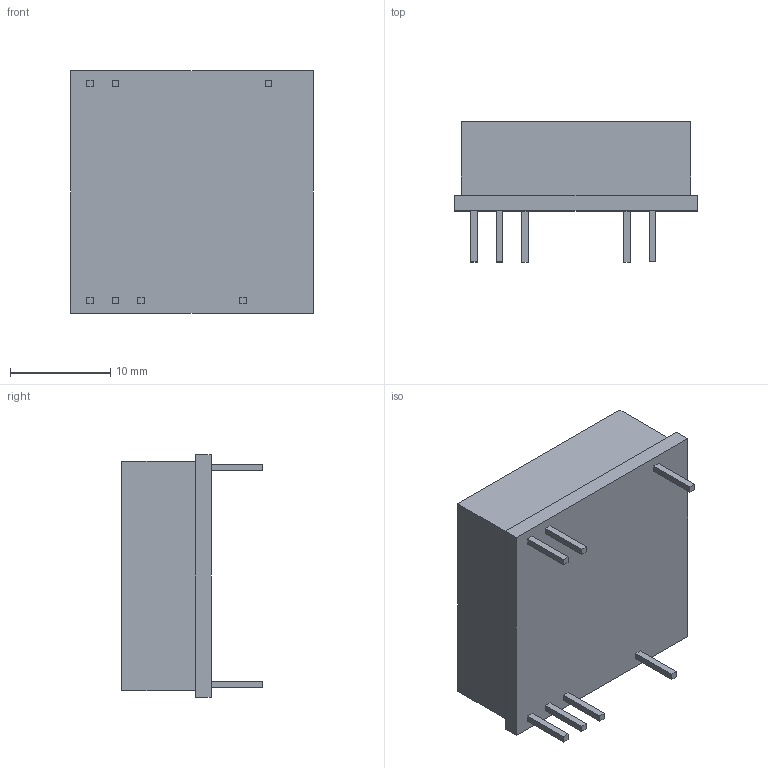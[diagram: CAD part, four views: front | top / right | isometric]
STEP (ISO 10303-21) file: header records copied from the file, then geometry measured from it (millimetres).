
FILE_DESCRIPTION(/* description */ (''),/* implementation_level */ '2;1');
FILE_NAME(/* name */ 'C:/Users/Nicholas/Downloads/1364 HVPS v4.step',/* time_stamp */ '2021-06-05T23:05:42-07:00',/* author */ (''),/* organization */ (''),/* preprocessor_version */ 'ST-DEVELOPER v18.1',/* originating_system */ 'Autodesk Translation Framework v10.9.0.1377',/* authorisation */ '');
FILE_SCHEMA (('AUTOMOTIVE_DESIGN { 1 0 10303 214 3 1 1 }'));
Length unit declared in the file: inch
Products named in the file (1): 1364 HVPS
Bounding box: 24.13 x 13.97 x 24.13 mm (x, y, z)
Volume: 4754.1 mm3; surface area: 2075.7 mm2
Topology: 1 solids, 1 shells, 46 faces, 108 edges, 72 vertices
Faces by surface type: plane 46
Entity records: 1388 total; most frequent: CARTESIAN_POINT 227, ORIENTED_EDGE 216, DIRECTION 202, LINE 108, VECTOR 108, EDGE_CURVE 108, VERTEX_POINT 72, EDGE_LOOP 54
